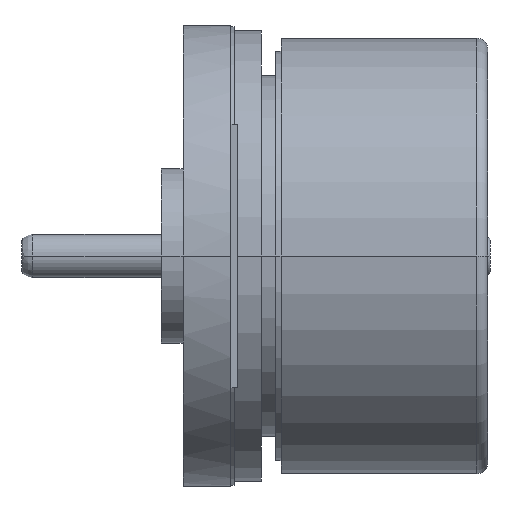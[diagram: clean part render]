
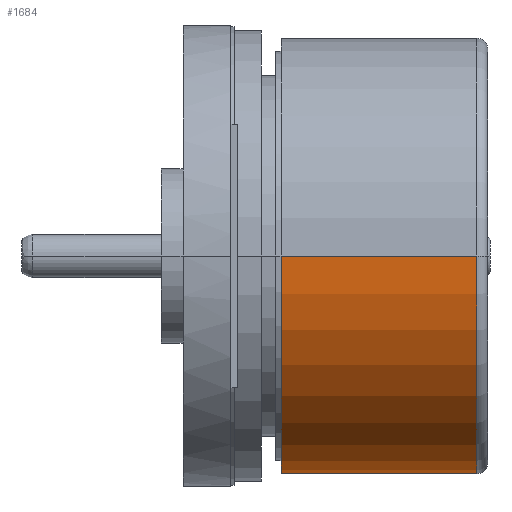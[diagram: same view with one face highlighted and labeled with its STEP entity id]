
A CAD part, front view. The second image highlights one B-rep face of the part: STEP entity #1684.
In plain terms, the highlighted cylindrical face has radius 10 mm (diameter 20 mm), a partial arc.
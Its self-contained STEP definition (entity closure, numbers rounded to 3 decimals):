
#545=CARTESIAN_POINT('',(2.3,0.,0.));
#546=DIRECTION('',(-1.,0.,0.));
#547=DIRECTION('',(0.,1.,0.));
#548=AXIS2_PLACEMENT_3D('',#545,#546,#547);
#561=CARTESIAN_POINT('',(11.3,0.,0.));
#562=DIRECTION('',(-1.,0.,0.));
#563=DIRECTION('',(0.,1.,0.));
#564=AXIS2_PLACEMENT_3D('',#561,#562,#563);
#569=DIRECTION('',(-1.,0.,0.));
#570=VECTOR('',#569,9.);
#571=CARTESIAN_POINT('',(11.3,10.,0.));
#572=LINE('',#571,#570);
#584=DIRECTION('',(-1.,0.,0.));
#585=VECTOR('',#584,9.);
#586=CARTESIAN_POINT('',(11.3,-10.,0.));
#587=LINE('',#586,#585);
#1149=CARTESIAN_POINT('',(11.3,10.,0.));
#1151=VERTEX_POINT('',#1149);
#1152=CARTESIAN_POINT('',(2.3,10.,0.));
#1153=VERTEX_POINT('',#1152);
#1167=CARTESIAN_POINT('',(11.3,-10.,0.));
#1169=VERTEX_POINT('',#1167);
#1170=CARTESIAN_POINT('',(2.3,-10.,0.));
#1171=VERTEX_POINT('',#1170);
#1670=CARTESIAN_POINT('',(12.975,0.,0.));
#1671=DIRECTION('',(-1.,0.,0.));
#1672=DIRECTION('',(0.,1.,0.));
#1673=AXIS2_PLACEMENT_3D('',#1670,#1671,#1672);
#1674=CYLINDRICAL_SURFACE('',#1673,10.);
#1676=ORIENTED_EDGE('',*,*,#1675,.T.);
#1677=ORIENTED_EDGE('',*,*,#1659,.T.);
#1679=ORIENTED_EDGE('',*,*,#1678,.F.);
#1681=ORIENTED_EDGE('',*,*,#1680,.F.);
#1682=EDGE_LOOP('',(#1676,#1677,#1679,#1681));
#1683=FACE_OUTER_BOUND('',#1682,.F.);
#1684=ADVANCED_FACE('',(#1683),#1674,.T.);
#549=CIRCLE('',#548,10.);
#565=CIRCLE('',#564,10.);
#1659=EDGE_CURVE('',#1153,#1171,#549,.T.);
#1675=EDGE_CURVE('',#1151,#1153,#572,.T.);
#1678=EDGE_CURVE('',#1169,#1171,#587,.T.);
#1680=EDGE_CURVE('',#1151,#1169,#565,.T.);
